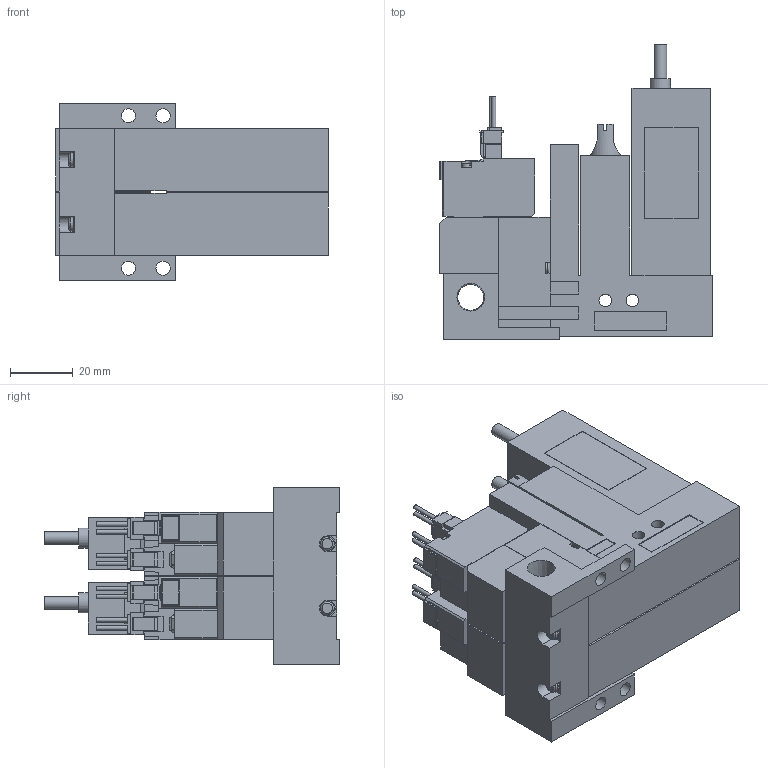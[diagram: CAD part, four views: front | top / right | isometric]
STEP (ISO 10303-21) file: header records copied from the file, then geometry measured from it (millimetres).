
FILE_DESCRIPTION(('STEP AP203'),'1');
FILE_NAME('VG_VGPL5ALR202.stp','2025-02-18T07:02:26',(' '),(' '),'Spatial InterOp 3D',' ',' ');
FILE_SCHEMA(('CONFIG_CONTROL_DESIGN'));
Length unit declared in the file: millimetre
Products named in the file (5): BMC22M※※※※VG_VGPL5ALR202; Solenoid valve A; Pressure sensor VGL; Unit L; Base MR20R
Assembly tree (7 placements, depth 2):
  BMC22M※※※※VG_VGPL5ALR202
    Solenoid valve A  x2
    Pressure sensor VGL  x2
    Unit L  x2
    Base MR20R
Bounding box: 86.6 x 94 x 56.5 mm (x, y, z)
Volume: 204341.9 mm3; surface area: 56104.8 mm2
Topology: 7 solids, 7 shells, 779 faces, 2085 edges, 1378 vertices
Faces by surface type: plane 654, cylinder 103, cone 16, torus 6
Full cylindrical faces by diameter (mm): 1.4 x8, 2.5 x6, 3 x8, 3.5 x8, 3.6 x2, 4 x12, 4.134 x2, 4.5 x4, 5.2 x2, 6 x2, 6.5 x2, 6.6 x2, 8.279 x1
Entity records: 12833 total; most frequent: CARTESIAN_POINT 2355, ORIENTED_EDGE 2066, DIRECTION 2037, EDGE_CURVE 1033, LINE 867, VECTOR 867, VERTEX_POINT 713, AXIS2_PLACEMENT_3D 585
